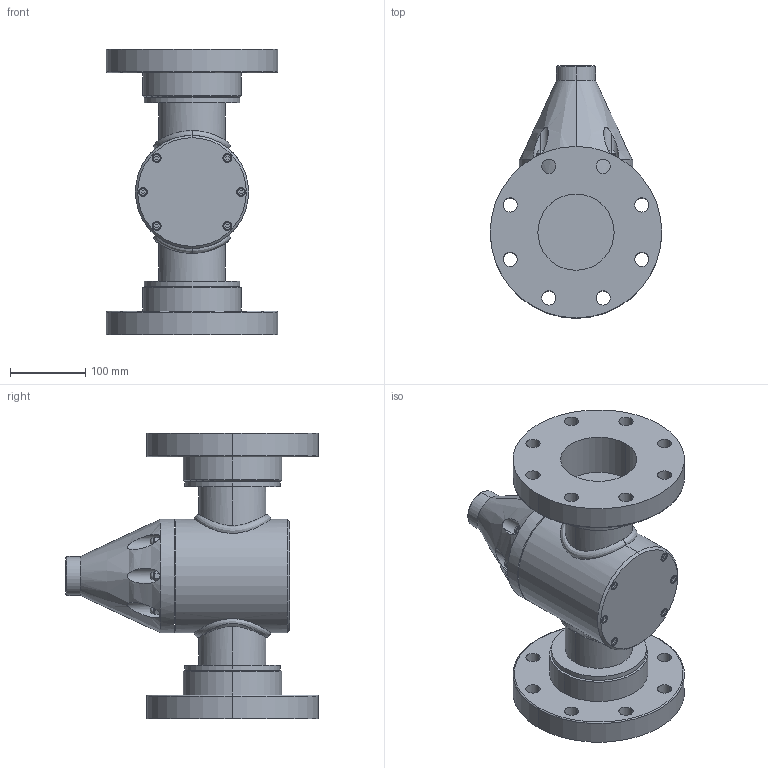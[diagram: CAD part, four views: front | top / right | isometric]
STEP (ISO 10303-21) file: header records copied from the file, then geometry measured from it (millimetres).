
FILE_DESCRIPTION (( 'STEP AP203' ), '1' );
FILE_NAME ('GPR4000-FLNG.STEP', '2016-02-12T01:05:49', ( '' ), ( '' ), 'SwSTEP 2.0', 'SolidWorks 2014', '' );
FILE_SCHEMA (( 'CONFIG_CONTROL_DESIGN' ));
Length unit declared in the file: inch
Products named in the file (2): GPR4000-FLNG
Bounding box: 228.6 x 336.55 x 381 mm (x, y, z)
Volume: 7203860.8 mm3; surface area: 480778.1 mm2
Topology: 1 solids, 1 shells, 317 faces, 735 edges, 471 vertices
Faces by surface type: cylinder 136, plane 135, cone 22, torus 18, bspline 6
Entity records: 13911 total; most frequent: CARTESIAN_POINT 6274, DIRECTION 1638, ORIENTED_EDGE 1470, EDGE_CURVE 735, AXIS2_PLACEMENT_3D 631, VERTEX_POINT 471, EDGE_LOOP 400, VECTOR 376
